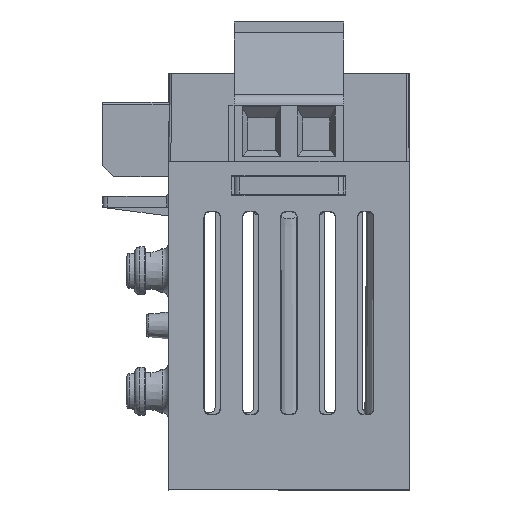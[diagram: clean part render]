
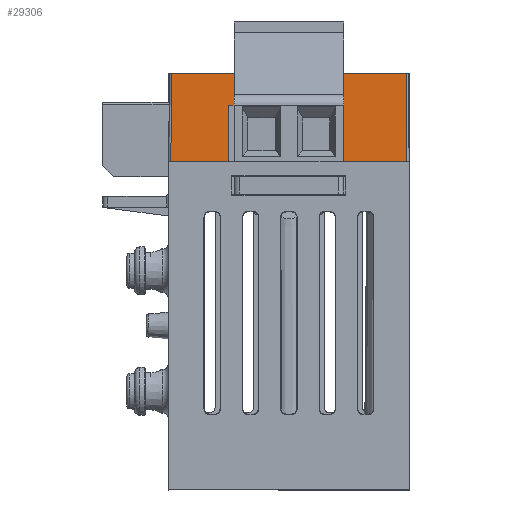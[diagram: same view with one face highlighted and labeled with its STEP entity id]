
A CAD part, front view. The second image highlights one B-rep face of the part: STEP entity #29306.
In plain terms, the highlighted planar face has unit normal (0, -1, 0.009).
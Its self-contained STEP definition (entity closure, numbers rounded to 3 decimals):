
#1054 = EDGE_CURVE ( 'NONE', #33152, #32602, #19952, .T. ) ;
#2012 = ORIENTED_EDGE ( 'NONE', *, *, #26909, .T. ) ;
#2905 = CARTESIAN_POINT ( 'NONE',  ( 10.7, 41.835, 9.4 ) ) ;
#2921 = DIRECTION ( 'NONE',  ( 1., 0., 0. ) ) ;
#3415 = VECTOR ( 'NONE', #15435, 1000. ) ;
#3513 = EDGE_CURVE ( 'NONE', #13394, #22995, #19867, .T. ) ;
#4540 = VECTOR ( 'NONE', #33443, 1000. ) ;
#5263 = VECTOR ( 'NONE', #33308, 1000. ) ;
#5427 = CARTESIAN_POINT ( 'NONE',  ( -10.782, 41.753, 0. ) ) ;
#6591 = ORIENTED_EDGE ( 'NONE', *, *, #3513, .T. ) ;
#6776 = CARTESIAN_POINT ( 'NONE',  ( -10.75, 41.753, 0. ) ) ;
#6874 = VECTOR ( 'NONE', #2921, 1000. ) ;
#8214 = CARTESIAN_POINT ( 'NONE',  ( 0., 41.753, 0. ) ) ;
#8563 = EDGE_CURVE ( 'NONE', #13394, #32602, #31210, .T. ) ;
#10844 = CARTESIAN_POINT ( 'NONE',  ( 10.75, 41.753, 0. ) ) ;
#11498 = VERTEX_POINT ( 'NONE', #6776 ) ;
#13394 = VERTEX_POINT ( 'NONE', #22057 ) ;
#14111 = FACE_OUTER_BOUND ( 'NONE', #25950, .T. ) ;
#14208 = CARTESIAN_POINT ( 'NONE',  ( 10.782, 41.753, 0. ) ) ;
#14888 = ORIENTED_EDGE ( 'NONE', *, *, #1054, .T. ) ;
#15435 = DIRECTION ( 'NONE',  ( -0.009, -0.009, -1. ) ) ;
#15791 = CARTESIAN_POINT ( 'NONE',  ( 10.9, 41.835, 9.4 ) ) ;
#16642 = ORIENTED_EDGE ( 'NONE', *, *, #19637, .F. ) ;
#17618 = VECTOR ( 'NONE', #30555, 1000. ) ;
#17862 = CARTESIAN_POINT ( 'NONE',  ( -10.782, 41.753, 0. ) ) ;
#18248 = LINE ( 'NONE', #26177, #5263 ) ;
#18635 = AXIS2_PLACEMENT_3D ( 'NONE', #26621, #19361, #21560 ) ;
#19361 = DIRECTION ( 'NONE',  ( 0., -1., 0.009 ) ) ;
#19637 = EDGE_CURVE ( 'NONE', #33152, #25535, #18248, .T. ) ;
#19867 = LINE ( 'NONE', #25588, #3415 ) ;
#19952 = LINE ( 'NONE', #30270, #28873 ) ;
#20232 = LINE ( 'NONE', #17862, #17618 ) ;
#21560 = DIRECTION ( 'NONE',  ( 0., -0.009, -1. ) ) ;
#22057 = CARTESIAN_POINT ( 'NONE',  ( -10.7, 41.835, 9.4 ) ) ;
#22808 = DIRECTION ( 'NONE',  ( -0.009, 0.009, 1. ) ) ;
#22995 = VERTEX_POINT ( 'NONE', #5427 ) ;
#23134 = LINE ( 'NONE', #8214, #4540 ) ;
#23631 = EDGE_CURVE ( 'NONE', #11498, #22995, #20232, .T. ) ;
#24597 = PLANE ( 'NONE',  #18635 ) ;
#25535 = VERTEX_POINT ( 'NONE', #10844 ) ;
#25588 = CARTESIAN_POINT ( 'NONE',  ( -10.698, 41.837, 9.588 ) ) ;
#25950 = EDGE_LOOP ( 'NONE', ( #16642, #14888, #31477, #6591, #29548, #2012 ) ) ;
#26177 = CARTESIAN_POINT ( 'NONE',  ( 10.9, 41.753, 0. ) ) ;
#26621 = CARTESIAN_POINT ( 'NONE',  ( 10.9, 41.835, 9.4 ) ) ;
#26909 = EDGE_CURVE ( 'NONE', #11498, #25535, #23134, .T. ) ;
#28873 = VECTOR ( 'NONE', #22808, 1000. ) ;
#29306 = ADVANCED_FACE ( 'NONE', ( #14111 ), #24597, .T. ) ;
#29548 = ORIENTED_EDGE ( 'NONE', *, *, #23631, .F. ) ;
#30270 = CARTESIAN_POINT ( 'NONE',  ( 10.7, 41.835, 9.398 ) ) ;
#30555 = DIRECTION ( 'NONE',  ( -1., 0., 0. ) ) ;
#31210 = LINE ( 'NONE', #15791, #6874 ) ;
#31477 = ORIENTED_EDGE ( 'NONE', *, *, #8563, .F. ) ;
#32602 = VERTEX_POINT ( 'NONE', #2905 ) ;
#33152 = VERTEX_POINT ( 'NONE', #14208 ) ;
#33308 = DIRECTION ( 'NONE',  ( -1., 0., 0. ) ) ;
#33443 = DIRECTION ( 'NONE',  ( 1., 0., 0. ) ) ;
